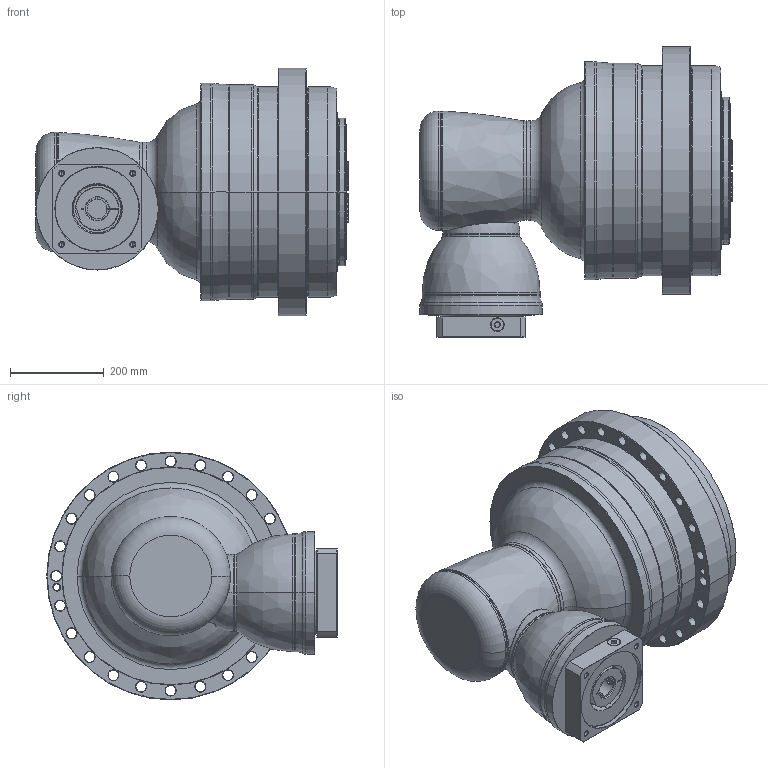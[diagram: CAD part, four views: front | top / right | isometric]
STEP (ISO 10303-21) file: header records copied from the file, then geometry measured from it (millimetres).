
FILE_DESCRIPTION((''),'2;1');
FILE_NAME('APCK450_3ST_42-P0409A00201_ASM','2018-05-14T',('d01226'),(''),'PRO/ENGINEER BY PARAMETRIC TECHNOLOGY CORPORATION, 2008410','PRO/ENGINEER BY PARAMETRIC TECHNOLOGY CORPORATION, 2008410','');
FILE_SCHEMA(('CONFIG_CONTROL_DESIGN'));
Length unit declared in the file: millimetre
Products named in the file (13): P1008700002; P1315700001; P1007701001; P1318701201; P0409A00201; P0503A00012; P0912702001; 21711422019; P1821200001; P0276201003; P03572B0103; P1222200001; APCK450_3ST_42-P0409A00201_ASM
Assembly tree (12 placements, depth 2):
  APCK450_3ST_42-P0409A00201_ASM
    P1008700002
    P1315700001
    P1007701001
    P1318701201
    P0409A00201
    P0503A00012
    P0912702001
    21711422019
    P1821200001
    P0276201003
    P03572B0103
    P1222200001
Bounding box: 667.6 x 621 x 530 mm (x, y, z)
Volume: 87651212.5 mm3; surface area: 3067171.5 mm2
Topology: 13 solids, 25 shells, 844 faces, 2035 edges, 1249 vertices
Faces by surface type: cone 272, cylinder 228, plane 164, torus 152, bspline 26, sphere 2
Entity records: 33820 total; most frequent: CARTESIAN_POINT 13651, DIRECTION 4502, ORIENTED_EDGE 3992, EDGE_CURVE 2021, AXIS2_PLACEMENT_3D 1999, VERTEX_POINT 1249, CIRCLE 1144, EDGE_LOOP 958
